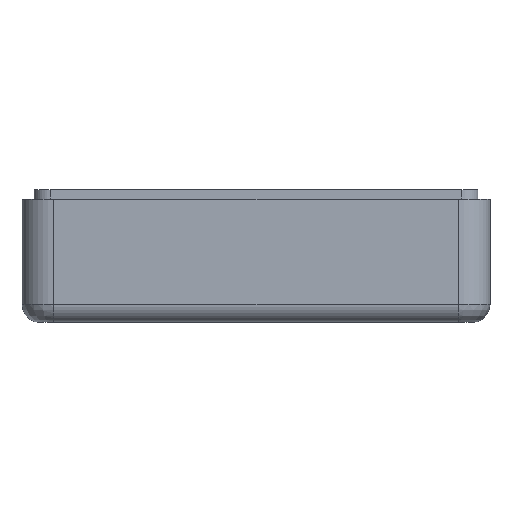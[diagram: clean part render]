
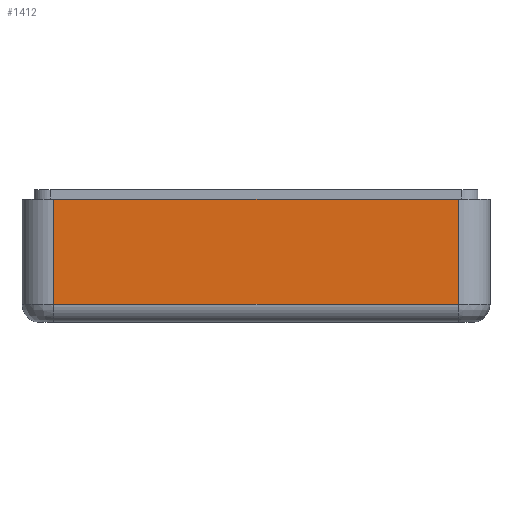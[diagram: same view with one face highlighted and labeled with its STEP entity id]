
A CAD part, left-side view. The second image highlights one B-rep face of the part: STEP entity #1412.
In plain terms, the highlighted planar face has unit normal (-1, 0, 0).
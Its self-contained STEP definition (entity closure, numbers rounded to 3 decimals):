
#72 = CYLINDRICAL_SURFACE('',#73,2.1);
#73 = AXIS2_PLACEMENT_3D('',#74,#75,#76);
#74 = CARTESIAN_POINT('',(0.45,-26.65,-8.02));
#75 = DIRECTION('',(0.,0.,1.));
#76 = DIRECTION('',(0.,-1.,0.));
#99 = PLANE('',#100);
#100 = AXIS2_PLACEMENT_3D('',#101,#102,#103);
#101 = CARTESIAN_POINT('',(-6.25,-33.35,0.1));
#102 = DIRECTION('',(0.,0.,1.));
#103 = DIRECTION('',(1.,0.,0.));
#298 = VERTEX_POINT('',#299);
#299 = CARTESIAN_POINT('',(-1.65,-26.65,-6.82));
#336 = EDGE_CURVE('',#298,#337,#339,.T.);
#337 = VERTEX_POINT('',#338);
#338 = CARTESIAN_POINT('',(-1.65,-26.65,0.1));
#339 = SURFACE_CURVE('',#340,(#344,#351),.PCURVE_S1.);
#340 = LINE('',#341,#342);
#341 = CARTESIAN_POINT('',(-1.65,-26.65,-8.02));
#342 = VECTOR('',#343,1.);
#343 = DIRECTION('',(0.,0.,1.));
#344 = PCURVE('',#72,#345);
#345 = DEFINITIONAL_REPRESENTATION('',(#346),#350);
#346 = LINE('',#347,#348);
#347 = CARTESIAN_POINT('',(-1.571,0.));
#348 = VECTOR('',#349,1.);
#349 = DIRECTION('',(-0.,1.));
#350 = ( GEOMETRIC_REPRESENTATION_CONTEXT(2) 
PARAMETRIC_REPRESENTATION_CONTEXT() REPRESENTATION_CONTEXT('2D SPACE',''
  ) );
#351 = PCURVE('',#352,#357);
#352 = PLANE('',#353);
#353 = AXIS2_PLACEMENT_3D('',#354,#355,#356);
#354 = CARTESIAN_POINT('',(-1.65,2.05,-8.02));
#355 = DIRECTION('',(1.,0.,-0.));
#356 = DIRECTION('',(0.,-1.,0.));
#357 = DEFINITIONAL_REPRESENTATION('',(#358),#362);
#358 = LINE('',#359,#360);
#359 = CARTESIAN_POINT('',(28.7,0.));
#360 = VECTOR('',#361,1.);
#361 = DIRECTION('',(0.,-1.));
#362 = ( GEOMETRIC_REPRESENTATION_CONTEXT(2) 
PARAMETRIC_REPRESENTATION_CONTEXT() REPRESENTATION_CONTEXT('2D SPACE',''
  ) );
#405 = CYLINDRICAL_SURFACE('',#406,1.2);
#406 = AXIS2_PLACEMENT_3D('',#407,#408,#409);
#407 = CARTESIAN_POINT('',(-0.45,-0.05,-6.82));
#408 = DIRECTION('',(0.,-1.,0.));
#409 = DIRECTION('',(-1.,-0.,0.));
#828 = CYLINDRICAL_SURFACE('',#829,2.1);
#829 = AXIS2_PLACEMENT_3D('',#830,#831,#832);
#830 = CARTESIAN_POINT('',(0.45,-0.05,-8.02));
#831 = DIRECTION('',(0.,0.,1.));
#832 = DIRECTION('',(-0.,1.,0.));
#1144 = VERTEX_POINT('',#1145);
#1145 = CARTESIAN_POINT('',(-1.65,-0.05,-6.82));
#1167 = EDGE_CURVE('',#1144,#1168,#1170,.T.);
#1168 = VERTEX_POINT('',#1169);
#1169 = CARTESIAN_POINT('',(-1.65,-0.05,0.1));
#1170 = SURFACE_CURVE('',#1171,(#1175,#1182),.PCURVE_S1.);
#1171 = LINE('',#1172,#1173);
#1172 = CARTESIAN_POINT('',(-1.65,-0.05,-8.02));
#1173 = VECTOR('',#1174,1.);
#1174 = DIRECTION('',(0.,0.,1.));
#1175 = PCURVE('',#828,#1176);
#1176 = DEFINITIONAL_REPRESENTATION('',(#1177),#1181);
#1177 = LINE('',#1178,#1179);
#1178 = CARTESIAN_POINT('',(1.571,0.));
#1179 = VECTOR('',#1180,1.);
#1180 = DIRECTION('',(0.,1.));
#1181 = ( GEOMETRIC_REPRESENTATION_CONTEXT(2) 
PARAMETRIC_REPRESENTATION_CONTEXT() REPRESENTATION_CONTEXT('2D SPACE',''
  ) );
#1182 = PCURVE('',#352,#1183);
#1183 = DEFINITIONAL_REPRESENTATION('',(#1184),#1188);
#1184 = LINE('',#1185,#1186);
#1185 = CARTESIAN_POINT('',(2.1,0.));
#1186 = VECTOR('',#1187,1.);
#1187 = DIRECTION('',(0.,-1.));
#1188 = ( GEOMETRIC_REPRESENTATION_CONTEXT(2) 
PARAMETRIC_REPRESENTATION_CONTEXT() REPRESENTATION_CONTEXT('2D SPACE',''
  ) );
#1392 = EDGE_CURVE('',#1144,#298,#1393,.T.);
#1393 = SURFACE_CURVE('',#1394,(#1398,#1405),.PCURVE_S1.);
#1394 = LINE('',#1395,#1396);
#1395 = CARTESIAN_POINT('',(-1.65,-0.05,-6.82));
#1396 = VECTOR('',#1397,1.);
#1397 = DIRECTION('',(0.,-1.,0.));
#1398 = PCURVE('',#405,#1399);
#1399 = DEFINITIONAL_REPRESENTATION('',(#1400),#1404);
#1400 = LINE('',#1401,#1402);
#1401 = CARTESIAN_POINT('',(0.,0.));
#1402 = VECTOR('',#1403,1.);
#1403 = DIRECTION('',(0.,1.));
#1404 = ( GEOMETRIC_REPRESENTATION_CONTEXT(2) 
PARAMETRIC_REPRESENTATION_CONTEXT() REPRESENTATION_CONTEXT('2D SPACE',''
  ) );
#1405 = PCURVE('',#352,#1406);
#1406 = DEFINITIONAL_REPRESENTATION('',(#1407),#1411);
#1407 = LINE('',#1408,#1409);
#1408 = CARTESIAN_POINT('',(2.1,-1.2));
#1409 = VECTOR('',#1410,1.);
#1410 = DIRECTION('',(1.,0.));
#1411 = ( GEOMETRIC_REPRESENTATION_CONTEXT(2) 
PARAMETRIC_REPRESENTATION_CONTEXT() REPRESENTATION_CONTEXT('2D SPACE',''
  ) );
#1412 = ADVANCED_FACE('',(#1413),#352,.F.);
#1413 = FACE_BOUND('',#1414,.F.);
#1414 = EDGE_LOOP('',(#1415,#1416,#1417,#1436));
#1415 = ORIENTED_EDGE('',*,*,#1392,.F.);
#1416 = ORIENTED_EDGE('',*,*,#1167,.T.);
#1417 = ORIENTED_EDGE('',*,*,#1418,.T.);
#1418 = EDGE_CURVE('',#1168,#337,#1419,.T.);
#1419 = SURFACE_CURVE('',#1420,(#1424,#1430),.PCURVE_S1.);
#1420 = LINE('',#1421,#1422);
#1421 = CARTESIAN_POINT('',(-1.65,-15.65,0.1));
#1422 = VECTOR('',#1423,1.);
#1423 = DIRECTION('',(0.,-1.,0.));
#1424 = PCURVE('',#352,#1425);
#1425 = DEFINITIONAL_REPRESENTATION('',(#1426),#1429);
#1426 = B_SPLINE_CURVE_WITH_KNOTS('',1,(#1427,#1428),.UNSPECIFIED.,.F.,
  .F.,(2,2),(-15.6,11.),.PIECEWISE_BEZIER_KNOTS.);
#1427 = CARTESIAN_POINT('',(2.1,-8.12));
#1428 = CARTESIAN_POINT('',(28.7,-8.12));
#1429 = ( GEOMETRIC_REPRESENTATION_CONTEXT(2) 
PARAMETRIC_REPRESENTATION_CONTEXT() REPRESENTATION_CONTEXT('2D SPACE',''
  ) );
#1430 = PCURVE('',#99,#1431);
#1431 = DEFINITIONAL_REPRESENTATION('',(#1432),#1435);
#1432 = B_SPLINE_CURVE_WITH_KNOTS('',1,(#1433,#1434),.UNSPECIFIED.,.F.,
  .F.,(2,2),(-15.6,11.),.PIECEWISE_BEZIER_KNOTS.);
#1433 = CARTESIAN_POINT('',(4.6,33.3));
#1434 = CARTESIAN_POINT('',(4.6,6.7));
#1435 = ( GEOMETRIC_REPRESENTATION_CONTEXT(2) 
PARAMETRIC_REPRESENTATION_CONTEXT() REPRESENTATION_CONTEXT('2D SPACE',''
  ) );
#1436 = ORIENTED_EDGE('',*,*,#336,.F.);
